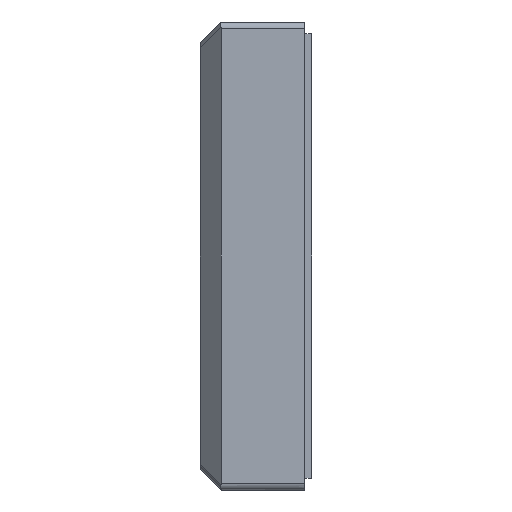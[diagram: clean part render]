
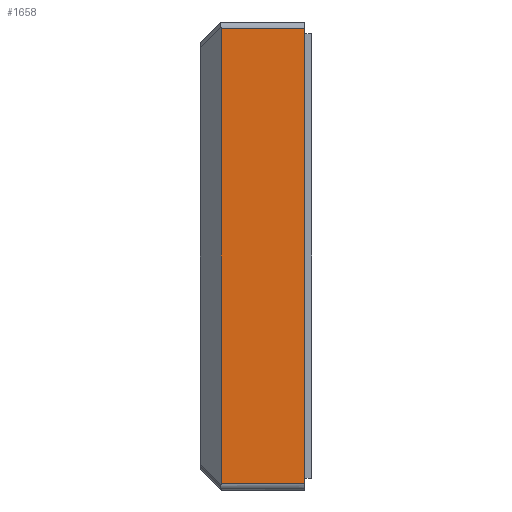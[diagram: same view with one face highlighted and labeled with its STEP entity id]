
A CAD part, left-side view. The second image highlights one B-rep face of the part: STEP entity #1658.
In plain terms, the highlighted planar face has unit normal (-1, 0, 0).
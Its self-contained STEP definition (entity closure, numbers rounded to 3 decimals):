
#49 = CARTESIAN_POINT ( 'NONE',  ( -62.75, 0., -32.65 ) ) ;
#186 = CARTESIAN_POINT ( 'NONE',  ( -62.75, 0., -33.65 ) ) ;
#212 = DIRECTION ( 'NONE',  ( 0., 0., 1. ) ) ;
#260 = VECTOR ( 'NONE', #212, 1000. ) ;
#462 = LINE ( 'NONE', #543, #4743 ) ;
#543 = CARTESIAN_POINT ( 'NONE',  ( -62.75, 15., -32.65 ) ) ;
#594 = VECTOR ( 'NONE', #2079, 1000. ) ;
#604 = DIRECTION ( 'NONE',  ( 0., -1., 0. ) ) ;
#612 = CARTESIAN_POINT ( 'NONE',  ( -62.75, 15., 32.65 ) ) ;
#630 = DIRECTION ( 'NONE',  ( 0., 1., 0. ) ) ;
#719 = LINE ( 'NONE', #2101, #594 ) ;
#762 = FACE_OUTER_BOUND ( 'NONE', #1663, .T. ) ;
#1287 = ORIENTED_EDGE ( 'NONE', *, *, #2974, .T. ) ;
#1536 = DIRECTION ( 'NONE',  ( 0., 0., -1. ) ) ;
#1658 = ADVANCED_FACE ( 'NONE', ( #762 ), #1847, .F. ) ;
#1663 = EDGE_LOOP ( 'NONE', ( #2621, #2383, #4314, #1287 ) ) ;
#1722 = DIRECTION ( 'NONE',  ( 1., 0., 0. ) ) ;
#1748 = CARTESIAN_POINT ( 'NONE',  ( -62.75, 15., -33.65 ) ) ;
#1847 = PLANE ( 'NONE',  #4419 ) ;
#1849 = VERTEX_POINT ( 'NONE', #2344 ) ;
#1880 = VERTEX_POINT ( 'NONE', #49 ) ;
#2079 = DIRECTION ( 'NONE',  ( 0., 0., -1. ) ) ;
#2101 = CARTESIAN_POINT ( 'NONE',  ( -62.75, 12., -33.65 ) ) ;
#2104 = CARTESIAN_POINT ( 'NONE',  ( -62.75, 12., 32.65 ) ) ;
#2344 = CARTESIAN_POINT ( 'NONE',  ( -62.75, 0., 32.65 ) ) ;
#2383 = ORIENTED_EDGE ( 'NONE', *, *, #2982, .T. ) ;
#2409 = LINE ( 'NONE', #186, #260 ) ;
#2557 = VERTEX_POINT ( 'NONE', #2104 ) ;
#2599 = VECTOR ( 'NONE', #630, 1000. ) ;
#2621 = ORIENTED_EDGE ( 'NONE', *, *, #3416, .T. ) ;
#2974 = EDGE_CURVE ( 'NONE', #1849, #2557, #3734, .T. ) ;
#2982 = EDGE_CURVE ( 'NONE', #3989, #1880, #462, .T. ) ;
#3416 = EDGE_CURVE ( 'NONE', #2557, #3989, #719, .T. ) ;
#3734 = LINE ( 'NONE', #612, #2599 ) ;
#3989 = VERTEX_POINT ( 'NONE', #4171 ) ;
#4171 = CARTESIAN_POINT ( 'NONE',  ( -62.75, 12., -32.65 ) ) ;
#4314 = ORIENTED_EDGE ( 'NONE', *, *, #5110, .T. ) ;
#4419 = AXIS2_PLACEMENT_3D ( 'NONE', #1748, #1722, #1536 ) ;
#4743 = VECTOR ( 'NONE', #604, 1000. ) ;
#5110 = EDGE_CURVE ( 'NONE', #1880, #1849, #2409, .T. ) ;
